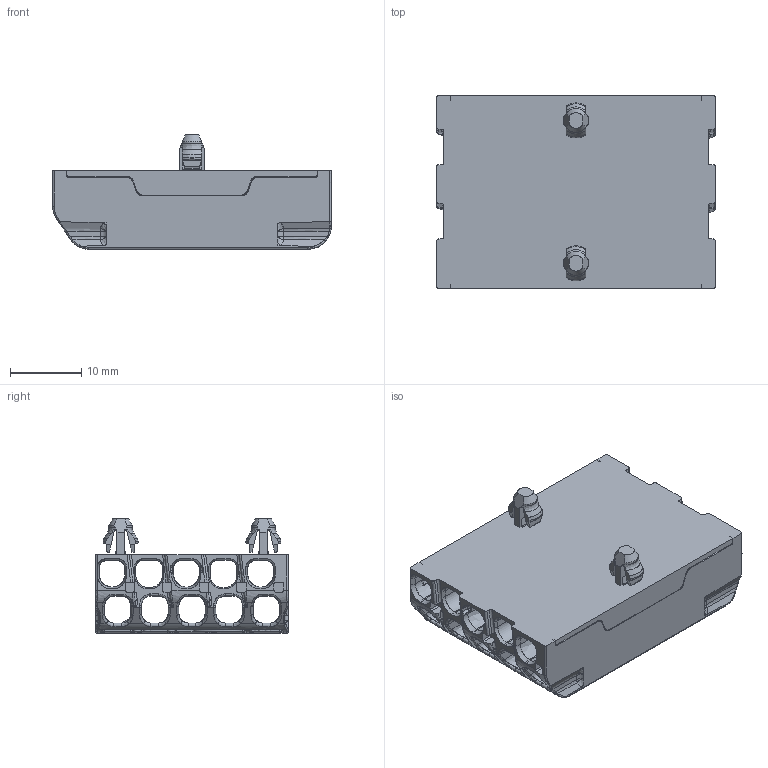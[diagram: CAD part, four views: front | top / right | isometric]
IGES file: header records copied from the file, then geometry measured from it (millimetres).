
Start section: C
Global section: file name: 022-F0A-03.igs; native system: By Siemens PLM Incorporated; preprocessor: XPlus GENERIC/IGES 23.0.61; author: Author; organization: Title; date: 20230731.092644; units: millimetre
Bounding box: 39 x 26.95 x 16 mm (x, y, z)
Surface area: 9036.2 mm2 (no closed solid volume)
Topology: 0 solids, 0 shells, 2765 faces, 15480 edges, 15450 vertices
Faces by surface type: bspline 2765
